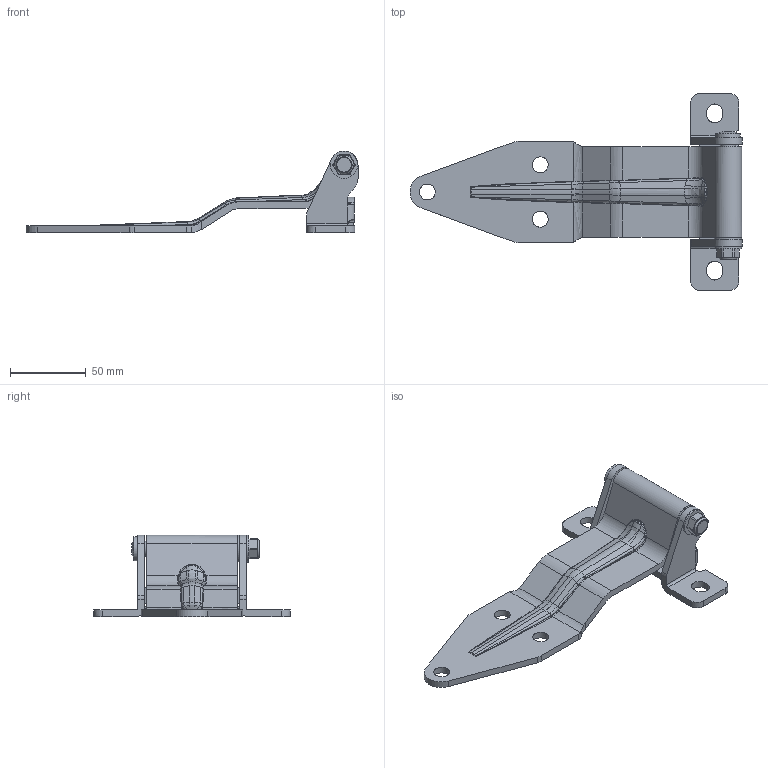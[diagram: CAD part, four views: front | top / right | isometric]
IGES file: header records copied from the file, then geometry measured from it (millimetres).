
Global section: file name: DR_HT402; native system: Autodesk Inventor 2015; preprocessor: unknown; author: Administrator; date: 20170830.085411; units: millimetre
Bounding box: 219.72 x 130 x 54 mm (x, y, z)
Volume: 106026.7 mm3; surface area: 52463.2 mm2
Topology: 4 solids, 4 shells, 306 faces, 783 edges, 490 vertices
Faces by surface type: bspline 306
